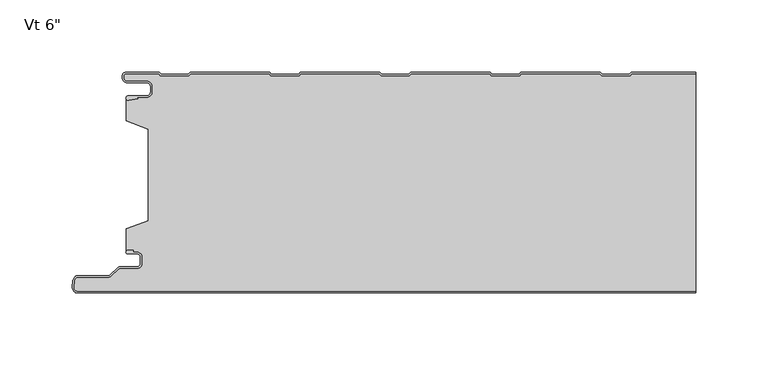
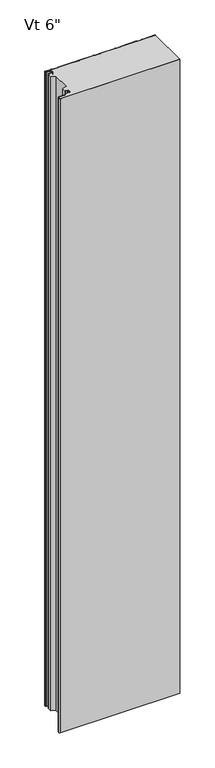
"""IFC4 building model written with IfcOpenShell, lengths in millimetres: plate geometry."""

from ifc_helpers import new_model, si_unit, point, frame, frame_2d, origin, origin_with_axes, place, context, project, spatial, polyline, circle_curve, trimmed, segment, composite_curve, outline, extrude, source, transform, mapped, element, save
from ifc_brep_helpers import plane_surface, cylinder_surface, revolved_surface, advanced_brep


def plate_6cb468a7(model_context):
    return source(origin(), model_context, "Body", "SolidModel", [
        extrude(outline(composite_curve([segment(polyline([(-196.9639401, -1.03e-05), (-173.8991777, -1.03e-05), (-172.6989573, -1.2002307), (-153.8919247, -1.2002307), (-152.6916939, 0.0), (-97.6993404, 0.0), (-96.4991097, -1.2002307), (-77.6920771, -1.2002307), (-76.4918463, 0.0), (-21.5159312, 0.0), (-20.3157004, -1.2002307), (-1.5086678, -1.2002307), (-0.3084371, 0.0), (54.667478, 0.0), (55.8677088, -1.2002307), (74.6747414, -1.2002307), (75.8749721, 0.0), (130.8673256, 0.0), (132.0675564, -1.2002307), (150.874589, -1.2002307), (152.0748197, 0.0), (196.6137654, 0.0), (196.6137654, -1.0), (152.4890333, -1.0), (151.2888025, -2.2002307), (131.6533428, -2.2002307), (130.4531121, -1.0), (76.2891857, -1.0), (75.0889549, -2.2002307), (55.4534952, -2.2002307), (54.2532645, -1.0), (0.1057765, -1.0), (-1.0944543, -2.2002307), (-20.729914, -2.2002307), (-21.9301447, -1.0), (-76.0776328, -1.0), (-77.2778635, -2.2002307), (-96.9133232, -2.2002307), (-98.113554, -1.0), (-152.2774804, -1.0), (-153.4777111, -2.2002307), (-173.1131708, -2.2002307), (-174.3133912, -1.0000103), (-196.9839768, -1.0000103)]), True, "CONTINUOUS"), segment(trimmed(circle_curve(frame_2d((-197.0487242, -2.3984828)), 1.3999705), [point((-196.9839768, -1.0000103))], [point((-198.4486947, -2.3984828))], True, "CARTESIAN"), True, "CONTINUOUS"), segment(polyline([(-198.4486947, -2.3984828), (-198.4486947, -3.9515996)]), True, "CONTINUOUS"), segment(trimmed(circle_curve(frame_2d((-196.2386394, -3.9515996)), 2.2100553), [point((-198.4486947, -3.9515996))], [point((-196.2386394, -6.1616549))], True, "CARTESIAN"), True, "CONTINUOUS"), segment(polyline([(-196.2386394, -6.1616549), (-182.7094114, -6.1616549)]), True, "CONTINUOUS"), segment(trimmed(circle_curve(frame_2d((-182.7094114, -9.881641)), 3.7199861), [point((-182.7094114, -6.1616549))], [point((-178.9894252, -9.881641))], False, "CARTESIAN"), True, "CONTINUOUS"), segment(polyline([(-178.9894252, -9.881641), (-178.9894252, -13.5282389)]), True, "CONTINUOUS"), segment(trimmed(circle_curve(frame_2d((-182.7094216, -13.5282389)), 3.7199964), [point((-178.9894252, -13.5282389))], [point((-182.7094216, -17.2482353))], False, "CARTESIAN"), True, "CONTINUOUS"), segment(polyline([(-182.7094216, -17.2482353), (-189.0545396, -17.2482353), (-188.8919338, -18.1704184), (-195.1454629, -19.2730843)]), True, "CONTINUOUS"), segment(trimmed(circle_curve(frame_2d((-195.4101029, -17.7722363)), 1.524001), [point((-195.1454629, -19.2730843))], [point((-195.4101029, -16.2482353))], False, "CARTESIAN"), True, "CONTINUOUS"), segment(polyline([(-195.4101029, -16.2482353), (-182.7094216, -16.2482353)]), True, "CONTINUOUS"), segment(trimmed(circle_curve(frame_2d((-182.7094216, -13.5282389)), 2.7199964), [point((-182.7094216, -16.2482353))], [point((-179.9894252, -13.5282389))], True, "CARTESIAN"), True, "CONTINUOUS"), segment(polyline([(-179.9894252, -13.5282389), (-179.9894252, -9.881641)]), True, "CONTINUOUS"), segment(trimmed(circle_curve(frame_2d((-182.7094114, -9.881641)), 2.7199861), [point((-179.9894252, -9.881641))], [point((-182.7094114, -7.1616549))], True, "CARTESIAN"), True, "CONTINUOUS"), segment(polyline([(-182.7094114, -7.1616549), (-196.2386394, -7.1616549)]), True, "CONTINUOUS"), segment(trimmed(circle_curve(frame_2d((-196.2386394, -3.9515996)), 3.2100553), [point((-196.2386394, -7.1616549))], [point((-199.4486948, -3.9515996))], False, "CARTESIAN"), True, "CONTINUOUS"), segment(polyline([(-199.4486948, -3.9515996), (-199.4486947, -2.3984828)]), True, "CONTINUOUS"), segment(trimmed(circle_curve(frame_2d((-197.0487242, -2.3984828)), 2.3999705), [point((-199.4486947, -2.3984828))], [point((-196.9639401, -1.03e-05))], False, "CARTESIAN"), True, "CONTINUOUS")], self_intersect=False)), origin_with_axes(), (0.0, 0.0, 1.0), 2400.0),
        extrude(outline(composite_curve([segment(polyline([(-195.7329864, -122.9060333), (-191.9745857, -122.9060333), (-191.9745857, -124.3045169), (-189.2754693, -124.3045169)]), True, "CONTINUOUS"), segment(trimmed(circle_curve(frame_2d((-189.2754693, -127.6545168)), 3.3499999), [point((-189.2754693, -124.3045169))], [point((-185.9254694, -127.6545168))], False, "CARTESIAN"), True, "CONTINUOUS"), segment(polyline([(-185.9254694, -127.6545168), (-185.9254694, -132.0545166)]), True, "CONTINUOUS"), segment(trimmed(circle_curve(frame_2d((-189.2754693, -132.0545166)), 3.3499999), [point((-185.9254694, -132.0545166))], [point((-189.2754693, -135.4045165))], False, "CARTESIAN"), True, "CONTINUOUS"), segment(polyline([(-189.2754693, -135.4045165), (-201.0863815, -135.4045165)]), True, "CONTINUOUS"), segment(trimmed(circle_curve(frame_2d((-201.0863815, -137.1045165)), 1.7), [point((-201.0863815, -135.4045165))], [point((-202.288463, -135.902435))], True, "CARTESIAN"), True, "CONTINUOUS"), segment(polyline([(-202.288463, -135.902435), (-207.029022, -140.6429939)]), True, "CONTINUOUS"), segment(trimmed(circle_curve(frame_2d((-208.8674996, -138.8045163)), 2.6), [point((-207.029022, -140.6429939))], [point((-208.8674996, -141.4045163))], False, "CARTESIAN"), True, "CONTINUOUS"), segment(polyline([(-208.8674996, -141.4045163), (-229.8742569, -141.4045163)]), True, "CONTINUOUS"), segment(trimmed(circle_curve(frame_2d((-229.8742569, -144.1045163)), 2.7), [point((-229.8742569, -141.4045163))], [point((-232.563964, -143.8689835))], True, "CARTESIAN"), True, "CONTINUOUS"), segment(polyline([(-232.563964, -143.8689835), (-232.9796492, -148.6159721)]), True, "CONTINUOUS"), segment(trimmed(circle_curve(frame_2d((-230.4287597, -148.8393488)), 2.5606512), [point((-232.9796492, -148.6159721))], [point((-230.4287597, -151.4))], True, "CARTESIAN"), True, "CONTINUOUS"), segment(polyline([(-230.4287597, -151.4), (196.6137654, -151.4), (196.6137654, -152.4), (-230.4287597, -152.4)]), True, "CONTINUOUS"), segment(trimmed(circle_curve(frame_2d((-230.4287597, -148.8393488)), 3.5606512), [point((-230.4287597, -152.4))], [point((-233.975837, -148.5287377))], False, "CARTESIAN"), True, "CONTINUOUS"), segment(polyline([(-233.975837, -148.5287377), (-233.5601518, -143.7817491)]), True, "CONTINUOUS"), segment(trimmed(circle_curve(frame_2d((-229.8742569, -144.1045163)), 3.7), [point((-233.5601518, -143.7817491))], [point((-229.8742569, -140.4045163))], False, "CARTESIAN"), True, "CONTINUOUS"), segment(polyline([(-229.8742569, -140.4045163), (-208.8674996, -140.4045163)]), True, "CONTINUOUS"), segment(trimmed(circle_curve(frame_2d((-208.8674996, -138.8045163)), 1.6), [point((-208.8674996, -140.4045163))], [point((-207.7361288, -139.9358871))], True, "CARTESIAN"), True, "CONTINUOUS"), segment(polyline([(-207.7361288, -139.9358871), (-202.9955698, -135.1953282)]), True, "CONTINUOUS"), segment(trimmed(circle_curve(frame_2d((-201.0863815, -137.1045165)), 2.7), [point((-202.9955698, -135.1953282))], [point((-201.0863815, -134.4045165))], False, "CARTESIAN"), True, "CONTINUOUS"), segment(polyline([(-201.0863815, -134.4045165), (-189.2754693, -134.4045165)]), True, "CONTINUOUS"), segment(trimmed(circle_curve(frame_2d((-189.2754693, -132.0545166)), 2.3499999), [point((-189.2754693, -134.4045165))], [point((-186.9254694, -132.0545166))], True, "CARTESIAN"), True, "CONTINUOUS"), segment(polyline([(-186.9254694, -132.0545166), (-186.9254694, -127.6545168)]), True, "CONTINUOUS"), segment(trimmed(circle_curve(frame_2d((-189.2754693, -127.6545168)), 2.3499999), [point((-186.9254694, -127.6545168))], [point((-189.2754693, -125.3045169))], True, "CARTESIAN"), True, "CONTINUOUS"), segment(polyline([(-189.2754693, -125.3045169), (-195.7947883, -125.3045169)]), True, "CONTINUOUS"), segment(trimmed(circle_curve(frame_2d((-195.734501, -124.1060323)), 1.2), [point((-195.7947883, -125.3045169))], [point((-195.7329864, -122.9060333))], False, "CARTESIAN"), True, "CONTINUOUS")], self_intersect=False)), origin_with_axes(), (0.0, 0.0, 1.0), 2400.0),
        advanced_brep(
        [(-189.2754693, -124.3045169, 2400.0), (-185.9254694, -127.6545168, 2400.0), (-185.9254694, -132.0545166, 2400.0), (-189.2754693, -135.4045165, 2400.0), (-201.0863815, -135.4045165, 2400.0), (-202.288463, -135.902435, 2400.0), (-207.029022, -140.6429939, 2400.0), (-208.8674996, -141.4045163, 2400.0), (-229.8742569, -141.4045163, 2400.0), (-232.563964, -143.8689835, 2400.0), (-232.9796492, -148.6159721, 2400.0), (-230.4287597, -151.4, 2400.0), (196.6137654, -151.4, 2400.0), (196.6137654, -1.0, 2400.0), (152.4890333, -1.0, 2400.0), (151.2888025, -2.2002307, 2400.0), (131.6533428, -2.2002307, 2400.0), (130.4531121, -1.0, 2400.0), (76.2891857, -1.0, 2400.0), (75.0889549, -2.2002307, 2400.0), (55.4534952, -2.2002307, 2400.0), (54.2532645, -1.0, 2400.0), (0.1057765, -1.0, 2400.0), (-1.0944543, -2.2002307, 2400.0), (-20.729914, -2.2002307, 2400.0), (-21.9301447, -1.0, 2400.0), (-76.0776328, -1.0, 2400.0), (-77.2778635, -2.2002307, 2400.0), (-96.9133232, -2.2002307, 2400.0), (-98.113554, -1.0, 2400.0), (-152.2774804, -1.0, 2400.0), (-153.4777111, -2.2002307, 2400.0), (-173.1131708, -2.2002307, 2400.0), (-174.3133912, -1.0000103, 2400.0), (-196.9839768, -1.0000103, 2400.0), (-198.4486947, -2.3984828, 2400.0), (-198.4486947, -3.9515996, 2400.0), (-196.2386394, -6.1616549, 2400.0), (-182.7094114, -6.1616549, 2400.0), (-178.9894252, -9.881641, 2400.0), (-178.9894252, -13.5282389, 2400.0), (-182.7094216, -17.2482353, 2400.0), (-189.0545396, -17.2482353, 2400.0), (-188.8919338, -18.1704184, 2400.0), (-195.1454629, -19.2730843, 2400.0), (-196.5999998, -18.7244571, 2400.0), (-196.5999998, -33.5050578, 2400.0), (-181.6020466, -39.1301019, 2400.0), (-181.588281, -102.5686066, 2400.0), (-196.5999998, -108.1928342, 2400.0), (-196.5999998, -123.2748213, 2400.0), (-195.7329864, -122.9060333, 2400.0), (-191.9745857, -122.9060333, 2400.0), (-191.9745857, -124.3045169, 2400.0), (-189.2754693, -124.3045169, 0.0), (-191.9745857, -124.3045169, 0.0), (-191.9745857, -122.9060333, 0.0), (-195.7329864, -122.9060333, 0.0), (-196.5999998, -123.2748213, 0.0), (-196.5999998, -108.1928342, 0.0), (-181.6020466, -102.5686066, 0.0), (-181.588281, -39.1301019, 0.0), (-196.5999998, -33.5050578, 0.0), (-196.5999998, -18.7244571, 0.0), (-195.1454629, -19.2730843, 0.0), (-188.8919338, -18.1704184, 0.0), (-189.0545396, -17.2482353, 0.0), (-182.7094216, -17.2482353, 0.0), (-178.9894252, -13.5282389, 0.0), (-178.9894252, -9.881641, 0.0), (-182.7094114, -6.1616549, 0.0), (-196.2386394, -6.1616549, 0.0), (-198.4486948, -3.9515996, 0.0), (-198.4486947, -2.3984828, 0.0), (-196.9839768, -1.0000103, 0.0), (-174.3133912, -1.0000103, 0.0), (-173.1131708, -2.2002307, 0.0), (-153.4777111, -2.2002307, 0.0), (-152.2774804, -1.0, 0.0), (-98.113554, -1.0, 0.0), (-96.9133232, -2.2002307, 0.0), (-77.2778635, -2.2002307, 0.0), (-76.0776328, -1.0, 0.0), (-21.9301447, -1.0, 0.0), (-20.729914, -2.2002307, 0.0), (-1.0944543, -2.2002307, 0.0), (0.1057765, -1.0, 0.0), (54.2532645, -1.0, 0.0), (55.4534952, -2.2002307, 0.0), (75.0889549, -2.2002307, 0.0), (76.2891857, -1.0, 0.0), (130.4531121, -1.0, 0.0), (131.6533428, -2.2002307, 0.0), (151.2888025, -2.2002307, 0.0), (152.4890333, -1.0, 0.0), (196.6137654, -1.0, 0.0), (196.6137654, -151.4, 0.0), (-230.4287597, -151.4, 0.0), (-232.9796492, -148.6159721, 0.0), (-232.563964, -143.8689835, 0.0), (-229.8742569, -141.4045163, 0.0), (-208.8674996, -141.4045163, 0.0), (-207.029022, -140.6429939, 0.0), (-202.288463, -135.902435, 0.0), (-201.0863815, -135.4045165, 0.0), (-189.2754693, -135.4045165, 0.0), (-185.9254694, -132.0545166, 0.0), (-185.9254694, -127.6545168, 0.0)],
        [
            (0, 1, circle_curve(frame((-189.2754693, -127.6545168, 2400.0), z_axis=(0.0, 0.0, -1.0), x_axis=(-1.0, 0.0, 0.0)), 3.3499999)),
            (1, 2),
            (2, 3, circle_curve(frame((-189.2754693, -132.0545166, 2400.0), z_axis=(0.0, 0.0, -1.0), x_axis=(-1.0, 0.0, 0.0)), 3.3499999)),
            (3, 4),
            (4, 5, circle_curve(frame((-201.0863815, -137.1045165, 2400.0), z_axis=(0.0, 0.0, 1.0), x_axis=(-1.0, 0.0, 0.0)), 1.7)),
            (5, 6),
            (6, 7, circle_curve(frame((-208.8674996, -138.8045163, 2400.0), z_axis=(0.0, 0.0, -1.0), x_axis=(-1.0, 0.0, 0.0)), 2.6)),
            (7, 8),
            (8, 9, circle_curve(frame((-229.8742569, -144.1045163, 2400.0), z_axis=(0.0, 0.0, 1.0), x_axis=(-1.0, 0.0, 0.0)), 2.7)),
            (9, 10),
            (10, 11, circle_curve(frame((-230.4287597, -148.8393488, 2400.0), z_axis=(0.0, 0.0, 1.0), x_axis=(-1.0, 0.0, 0.0)), 2.5606512)),
            (11, 12),
            (12, 13),
            (13, 14),
            (14, 15),
            (15, 16),
            (16, 17),
            (17, 18),
            (18, 19),
            (19, 20),
            (20, 21),
            (21, 22),
            (22, 23),
            (23, 24),
            (24, 25),
            (25, 26),
            (26, 27),
            (27, 28),
            (28, 29),
            (29, 30),
            (30, 31),
            (31, 32),
            (32, 33),
            (33, 34),
            (34, 35, circle_curve(frame((-197.0487242, -2.3984828, 2400.0), z_axis=(0.0, 0.0, 1.0), x_axis=(-1.0, 0.0, 0.0)), 1.3999705)),
            (35, 36),
            (36, 37, circle_curve(frame((-196.2386394, -3.9515996, 2400.0), z_axis=(0.0, 0.0, 1.0), x_axis=(-1.0, 0.0, 0.0)), 2.2100553)),
            (37, 38),
            (38, 39, circle_curve(frame((-182.7094114, -9.881641, 2400.0), z_axis=(0.0, 0.0, -1.0), x_axis=(-1.0, 0.0, 0.0)), 3.7199861)),
            (39, 40),
            (40, 41, circle_curve(frame((-182.7094216, -13.5282389, 2400.0), z_axis=(0.0, 0.0, -1.0), x_axis=(-1.0, 0.0, 0.0)), 3.7199964)),
            (41, 42),
            (42, 43),
            (43, 44),
            (44, 45, circle_curve(frame((-195.4101029, -17.7722363, 2400.0), z_axis=(0.0, 0.0, -1.0), x_axis=(-1.0, 0.0, 0.0)), 1.524001)),
            (45, 46),
            (46, 47),
            (47, 48),
            (48, 49),
            (49, 50),
            (50, 51, circle_curve(frame((-195.734501, -124.1060323, 2400.0), z_axis=(0.0, 0.0, -1.0), x_axis=(-1.0, 0.0, 0.0)), 1.2)),
            (51, 52),
            (52, 53),
            (53, 0),
            (54, 55),
            (55, 56),
            (56, 57),
            (57, 58, circle_curve(frame((-195.734501, -124.1060323, 0.0), z_axis=(0.0, 0.0, 1.0), x_axis=(-1.0, 0.0, 0.0)), 1.2)),
            (58, 59),
            (59, 60),
            (60, 61),
            (61, 62),
            (62, 63),
            (63, 64, circle_curve(frame((-195.4101029, -17.7722363, 0.0), z_axis=(0.0, 0.0, 1.0), x_axis=(-1.0, 0.0, 0.0)), 1.524001)),
            (64, 65),
            (65, 66),
            (66, 67),
            (67, 68, circle_curve(frame((-182.7094216, -13.5282389, 0.0), z_axis=(0.0, 0.0, 1.0), x_axis=(-1.0, 0.0, 0.0)), 3.7199964)),
            (68, 69),
            (69, 70, circle_curve(frame((-182.7094114, -9.881641, 0.0), z_axis=(0.0, 0.0, 1.0), x_axis=(-1.0, 0.0, 0.0)), 3.7199861)),
            (70, 71),
            (71, 72, circle_curve(frame((-196.2386394, -3.9515996, 0.0), z_axis=(0.0, 0.0, -1.0), x_axis=(-1.0, 0.0, 0.0)), 2.2100553)),
            (72, 73),
            (73, 74, circle_curve(frame((-197.0487242, -2.3984828, 0.0), z_axis=(0.0, 0.0, -1.0), x_axis=(-1.0, 0.0, 0.0)), 1.3999705)),
            (74, 75),
            (75, 76),
            (76, 77),
            (77, 78),
            (78, 79),
            (79, 80),
            (80, 81),
            (81, 82),
            (82, 83),
            (83, 84),
            (84, 85),
            (85, 86),
            (86, 87),
            (87, 88),
            (88, 89),
            (89, 90),
            (90, 91),
            (91, 92),
            (92, 93),
            (93, 94),
            (94, 95),
            (95, 96),
            (96, 97),
            (97, 98, circle_curve(frame((-230.4287597, -148.8393488, 0.0), z_axis=(0.0, 0.0, -1.0), x_axis=(-1.0, 0.0, 0.0)), 2.5606512)),
            (98, 99),
            (99, 100, circle_curve(frame((-229.8742569, -144.1045163, 0.0), z_axis=(0.0, 0.0, -1.0), x_axis=(-1.0, 0.0, 0.0)), 2.7)),
            (100, 101),
            (101, 102, circle_curve(frame((-208.8674996, -138.8045163, 0.0), z_axis=(0.0, 0.0, 1.0), x_axis=(-1.0, 0.0, 0.0)), 2.6)),
            (102, 103),
            (103, 104, circle_curve(frame((-201.0863815, -137.1045165, 0.0), z_axis=(0.0, 0.0, -1.0), x_axis=(-1.0, 0.0, 0.0)), 1.7)),
            (104, 105),
            (105, 106, circle_curve(frame((-189.2754693, -132.0545166, 0.0), z_axis=(0.0, 0.0, 1.0), x_axis=(-1.0, 0.0, 0.0)), 3.3499999)),
            (106, 107),
            (107, 54, circle_curve(frame((-189.2754693, -127.6545168, 0.0), z_axis=(0.0, 0.0, 1.0), x_axis=(-1.0, 0.0, 0.0)), 3.3499999)),
            (48, 60),
            (59, 49),
            (58, 50),
            (2, 106),
            (105, 3),
            (1, 107),
            (104, 4),
            (103, 5),
            (6, 102),
            (101, 7),
            (100, 8),
            (99, 9),
            (10, 98),
            (97, 11),
            (96, 12),
            (57, 51),
            (52, 56),
            (55, 53),
            (54, 0),
            (38, 70),
            (69, 39),
            (37, 71),
            (36, 72),
            (35, 73),
            (34, 74),
            (33, 75),
            (32, 76),
            (31, 77),
            (30, 78),
            (29, 79),
            (28, 80),
            (27, 81),
            (26, 82),
            (25, 83),
            (24, 84),
            (23, 85),
            (22, 86),
            (21, 87),
            (20, 88),
            (19, 89),
            (18, 90),
            (17, 91),
            (16, 92),
            (15, 93),
            (14, 94),
            (13, 95),
            (46, 62),
            (61, 47),
            (45, 63),
            (44, 64),
            (43, 65),
            (42, 66),
            (41, 67),
            (40, 68),
        ],
        [
            plane_surface(frame((336.2637657, -151.4, 2400.0), z_axis=(0.0, 0.0, 1.0), x_axis=(0.0, -1.0, 0.0))),
            plane_surface(frame((336.2637657, -151.4, 0.0), z_axis=(0.0, 0.0, -1.0), x_axis=(0.0, -1.0, 0.0))),
            plane_surface(frame((-196.5999998, -108.1928342, 2400.0), z_axis=(-0.3511231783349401, 0.9363292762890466, 0.0), x_axis=(0.0, 0.0, -1.0))),
            plane_surface(frame((-196.5999998, -123.2748213, 2400.0), z_axis=(-1.0, 0.0, 0.0), x_axis=(0.0, 0.0, -1.0))),
            revolved_surface(polyline([(-192.6254692, -132.0545166, 0.0), (-192.6254692, -132.0545166, 2400.0)]), (-189.2754693, -132.0545166, 2400.0), (0.0, 0.0, -1.0)),
            plane_surface(frame((-185.9254694, -132.0545166, 2400.0), z_axis=(-1.0, 0.0, 0.0), x_axis=(0.0, 0.0, -1.0))),
            plane_surface(frame((-201.0863815, -135.4045165, 2400.0), z_axis=(0.0, 1.0, 0.0), x_axis=(0.0, 0.0, -1.0))),
            cylinder_surface(frame((-201.0863815, -137.1045165, 2400.0), z_axis=(0.0, 0.0, 1.0), x_axis=(-1.0, 0.0, 0.0)), 1.7),
            revolved_surface(polyline([(-211.4674996, -138.8045163, 0.0), (-211.4674996, -138.8045163, 2400.0)]), (-208.8674996, -138.8045163, 2400.0), (0.0, 0.0, -1.0)),
            plane_surface(frame((-207.029022, -140.6429939, 2400.0), z_axis=(-0.7071067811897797, 0.7071067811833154, 0.0), x_axis=(0.0, 0.0, -1.0))),
            plane_surface(frame((-229.8742569, -141.4045163, 2400.0), z_axis=(0.0, 1.0, 0.0), x_axis=(0.0, 0.0, -1.0))),
            cylinder_surface(frame((-229.8742569, -144.1045163, 2400.0), z_axis=(0.0, 0.0, 1.0), x_axis=(-1.0, 0.0, 0.0)), 2.7),
            cylinder_surface(frame((-230.4287597, -148.8393488, 2400.0), z_axis=(0.0, 0.0, 1.0), x_axis=(-1.0, 0.0, 0.0)), 2.5606512),
            plane_surface(frame((-232.9796492, -148.6159721, 2400.0), z_axis=(-0.9961878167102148, 0.08723436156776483, 0.0), x_axis=(0.0, 0.0, -1.0))),
            plane_surface(frame((824.4519051, -151.4, 2400.0), z_axis=(0.0, -1.0, 0.0), x_axis=(0.0, 0.0, -1.0))),
            revolved_surface(polyline([(-196.93450099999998, -124.1060323, 0.0), (-196.93450099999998, -124.1060323, 2400.0)]), (-195.734501, -124.1060323, 2400.0), (0.0, 0.0, -1.0)),
            plane_surface(frame((-191.9745857, -124.3045169, 2400.0), z_axis=(-1.0, 0.0, 0.0), x_axis=(0.0, 0.0, -1.0))),
            plane_surface(frame((-191.9745857, -122.9060333, 2400.0), z_axis=(0.0, -1.0, 0.0), x_axis=(0.0, 0.0, -1.0))),
            plane_surface(frame((-189.2754693, -124.3045169, 2400.0), z_axis=(0.0, -1.0, 0.0), x_axis=(0.0, 0.0, -1.0))),
            revolved_surface(polyline([(-192.6254692, -127.6545168, 0.0), (-192.6254692, -127.6545168, 2400.0)]), (-189.2754693, -127.6545168, 2400.0), (0.0, 0.0, -1.0)),
            revolved_surface(polyline([(-186.4293975, -9.881641, 0.0), (-186.4293975, -9.881641, 2400.0)]), (-182.7094114, -9.881641, 2400.0), (0.0, 0.0, -1.0)),
            plane_surface(frame((-182.7094114, -6.1616549, 2400.0), z_axis=(0.0, -1.0, 0.0), x_axis=(0.0, 0.0, -1.0))),
            cylinder_surface(frame((-196.2386394, -3.9515996, 2400.0), z_axis=(0.0, 0.0, 1.0), x_axis=(-1.0, 0.0, 0.0)), 2.2100553),
            plane_surface(frame((-198.4486947, -3.9515996, 2400.0), z_axis=(-1.0, 0.0, 0.0), x_axis=(0.0, 0.0, -1.0))),
            cylinder_surface(frame((-197.0487242, -2.3984828, 2400.0), z_axis=(0.0, 0.0, 1.0), x_axis=(-1.0, 0.0, 0.0)), 1.3999705),
            plane_surface(frame((-196.9839768, -1.0000103, 2400.0), z_axis=(0.0, 1.0, 0.0), x_axis=(0.0, 0.0, -1.0))),
            plane_surface(frame((-174.3133912, -1.0000103, 2400.0), z_axis=(0.7071067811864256, 0.7071067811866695, 0.0), x_axis=(0.0, 0.0, -1.0))),
            plane_surface(frame((-163.295441, -2.2002307, 2400.0), z_axis=(0.0, 1.0, 0.0), x_axis=(0.0, 0.0, -1.0))),
            plane_surface(frame((-153.4777111, -2.2002307, 2400.0), z_axis=(-0.7071067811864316, 0.7071067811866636, 0.0), x_axis=(0.0, 0.0, -1.0))),
            plane_surface(frame((-152.2774804, -1.0, 2400.0), z_axis=(0.0, 1.0, 0.0), x_axis=(0.0, 0.0, -1.0))),
            plane_surface(frame((-98.113554, -1.0, 2400.0), z_axis=(0.7071067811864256, 0.7071067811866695, 0.0), x_axis=(0.0, 0.0, -1.0))),
            plane_surface(frame((-87.0955934, -2.2002307, 2400.0), z_axis=(0.0, 1.0, 0.0), x_axis=(0.0, 0.0, -1.0))),
            plane_surface(frame((-77.2778635, -2.2002307, 2400.0), z_axis=(-0.7071067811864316, 0.7071067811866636, 0.0), x_axis=(0.0, 0.0, -1.0))),
            plane_surface(frame((-76.0776328, -1.0, 2400.0), z_axis=(0.0, 1.0, 0.0), x_axis=(0.0, 0.0, -1.0))),
            plane_surface(frame((-21.9301447, -1.0, 2400.0), z_axis=(0.7071067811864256, 0.7071067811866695, 0.0), x_axis=(0.0, 0.0, -1.0))),
            plane_surface(frame((-10.9121841, -2.2002307, 2400.0), z_axis=(0.0, 1.0, 0.0), x_axis=(0.0, 0.0, -1.0))),
            plane_surface(frame((-1.0944543, -2.2002307, 2400.0), z_axis=(-0.7071067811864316, 0.7071067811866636, 0.0), x_axis=(0.0, 0.0, -1.0))),
            plane_surface(frame((0.1057765, -1.0, 2400.0), z_axis=(0.0, 1.0, 0.0), x_axis=(0.0, 0.0, -1.0))),
            plane_surface(frame((54.2532645, -1.0, 2400.0), z_axis=(0.7071067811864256, 0.7071067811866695, 0.0), x_axis=(0.0, 0.0, -1.0))),
            plane_surface(frame((65.2712251, -2.2002307, 2400.0), z_axis=(0.0, 1.0, 0.0), x_axis=(0.0, 0.0, -1.0))),
            plane_surface(frame((75.0889549, -2.2002307, 2400.0), z_axis=(-0.7071067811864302, 0.7071067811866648, 0.0), x_axis=(0.0, 0.0, -1.0))),
            plane_surface(frame((76.2891857, -1.0, 2400.0), z_axis=(0.0, 1.0, 0.0), x_axis=(0.0, 0.0, -1.0))),
            plane_surface(frame((130.4531121, -1.0, 2400.0), z_axis=(0.7071067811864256, 0.7071067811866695, 0.0), x_axis=(0.0, 0.0, -1.0))),
            plane_surface(frame((141.4710727, -2.2002307, 2400.0), z_axis=(0.0, 1.0, 0.0), x_axis=(0.0, 0.0, -1.0))),
            plane_surface(frame((151.2888025, -2.2002307, 2400.0), z_axis=(-0.7071067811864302, 0.7071067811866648, 0.0), x_axis=(0.0, 0.0, -1.0))),
            plane_surface(frame((152.4890333, -1.0, 2400.0), z_axis=(0.0, 1.0, 0.0), x_axis=(0.0, 0.0, -1.0))),
            plane_surface(frame((-181.6020466, -39.1301019, 2400.0), z_axis=(-0.35116785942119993, -0.9363125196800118, 0.0), x_axis=(0.0, 0.0, -1.0))),
            plane_surface(frame((-196.5999998, -33.5050578, 2400.0), z_axis=(-1.0, 0.0, 0.0), x_axis=(0.0, 0.0, -1.0))),
            revolved_surface(polyline([(-196.9341039, -17.7722363, 0.0), (-196.9341039, -17.7722363, 2400.0)]), (-195.4101029, -17.7722363, 2400.0), (0.0, 0.0, -1.0)),
            plane_surface(frame((-195.1454629, -19.2730843, 2400.0), z_axis=(-0.17364817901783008, 0.9848077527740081, 0.0), x_axis=(0.0, 0.0, -1.0))),
            plane_surface(frame((-188.8919338, -18.1704184, 2400.0), z_axis=(-0.9848077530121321, -0.17364817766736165, 0.0), x_axis=(0.0, 0.0, -1.0))),
            plane_surface(frame((-189.0545396, -17.2482353, 2400.0), z_axis=(0.0, 1.0, 0.0), x_axis=(0.0, 0.0, -1.0))),
            revolved_surface(polyline([(-186.42941800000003, -13.5282389, 0.0), (-186.42941800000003, -13.5282389, 2400.0)]), (-182.7094216, -13.5282389, 2400.0), (0.0, 0.0, -1.0)),
            plane_surface(frame((-178.9894252, -13.5282389, 2400.0), z_axis=(-1.0, 0.0, 0.0), x_axis=(0.0, 0.0, -1.0))),
            plane_surface(frame((-181.588281, -102.5686066, 2400.0), z_axis=(-1.0, 0.0, 0.0), x_axis=(0.0, 0.0, -1.0))),
            plane_surface(frame((196.6137654, -164.4, 2400.0), z_axis=(1.0, 0.0, 0.0), x_axis=(0.0, 0.0, -1.0))),
        ],
        [
            (0, [[1, 2, 3, 4, 5, 6, 7, 8, 9, 10, 11, 12, 13, 14, 15, 16, 17, 18, 19, 20, 21, 22, 23, 24, 25, 26, 27, 28, 29, 30, 31, 32, 33, 34, 35, 36, 37, 38, 39, 40, 41, 42, 43, 44, 45, 46, 47, 48, 49, 50, 51, 52, 53, 54]]),
            (1, [[55, 56, 57, 58, 59, 60, 61, 62, 63, 64, 65, 66, 67, 68, 69, 70, 71, 72, 73, 74, 75, 76, 77, 78, 79, 80, 81, 82, 83, 84, 85, 86, 87, 88, 89, 90, 91, 92, 93, 94, 95, 96, 97, 98, 99, 100, 101, 102, 103, 104, 105, 106, 107, 108]]),
            (2, [[109, -60, 110, -49]]),
            (3, [[-110, -59, 111, -50]]),
            (4, [[112, -106, 113, -3]]),
            (5, [[114, -107, -112, -2]]),
            (6, [[-113, -105, 115, -4]]),
            (7, [[-115, -104, 116, -5]]),
            (8, [[117, -102, 118, -7]]),
            (9, [[-116, -103, -117, -6]]),
            (10, [[-118, -101, 119, -8]]),
            (11, [[-119, -100, 120, -9]]),
            (12, [[121, -98, 122, -11]]),
            (13, [[-120, -99, -121, -10]]),
            (14, [[-97, 123, -12, -122]]),
            (15, [[-111, -58, 124, -51]]),
            (16, [[125, -56, 126, -53]]),
            (17, [[-124, -57, -125, -52]]),
            (18, [[-126, -55, 127, -54]]),
            (19, [[-127, -108, -114, -1]]),
            (20, [[128, -70, 129, -39]]),
            (21, [[130, -71, -128, -38]]),
            (22, [[131, -72, -130, -37]]),
            (23, [[132, -73, -131, -36]]),
            (24, [[133, -74, -132, -35]]),
            (25, [[134, -75, -133, -34]]),
            (26, [[135, -76, -134, -33]]),
            (27, [[136, -77, -135, -32]]),
            (28, [[137, -78, -136, -31]]),
            (29, [[138, -79, -137, -30]]),
            (30, [[139, -80, -138, -29]]),
            (31, [[140, -81, -139, -28]]),
            (32, [[141, -82, -140, -27]]),
            (33, [[142, -83, -141, -26]]),
            (34, [[143, -84, -142, -25]]),
            (35, [[144, -85, -143, -24]]),
            (36, [[145, -86, -144, -23]]),
            (37, [[146, -87, -145, -22]]),
            (38, [[147, -88, -146, -21]]),
            (39, [[148, -89, -147, -20]]),
            (40, [[149, -90, -148, -19]]),
            (41, [[150, -91, -149, -18]]),
            (42, [[151, -92, -150, -17]]),
            (43, [[152, -93, -151, -16]]),
            (44, [[153, -94, -152, -15]]),
            (45, [[-14, 154, -95, -153]]),
            (46, [[155, -62, 156, -47]]),
            (47, [[157, -63, -155, -46]]),
            (48, [[158, -64, -157, -45]]),
            (49, [[159, -65, -158, -44]]),
            (50, [[160, -66, -159, -43]]),
            (51, [[161, -67, -160, -42]]),
            (52, [[162, -68, -161, -41]]),
            (53, [[-129, -69, -162, -40]]),
            (54, [[-156, -61, -109, -48]]),
            (55, [[-123, -96, -154, -13]]),
        ],
    ),
    ])


if __name__ == "__main__":
    model = new_model("IFC4")
    model_context = context("Model", 3, world=origin())
    ifc_project = project(units=[si_unit("LENGTHUNIT", "METRE", prefix="MILLI")], contexts=[model_context])
    site = spatial("IfcSite", under=ifc_project)
    building = spatial("IfcBuilding", under=site)
    placement = place(None, origin())
    plate_shape = plate_6cb468a7(model_context)
    element("IfcPlate", 1, ObjectType="KIP-42-KRHF-R19-CP-Vt-FL_SL : Vt 6\"", at=placement, inside=building, context=model_context, shape_type="MappedRepresentation", body=[
        mapped(plate_shape, transform((0.0, 0.0, 0.0), x_axis=(1.0, 0.0, 0.0), y_axis=(0.0, 1.0, 0.0), z_axis=(0.0, 0.0, 1.0))),
    ])
    save(model, "model.ifc")
